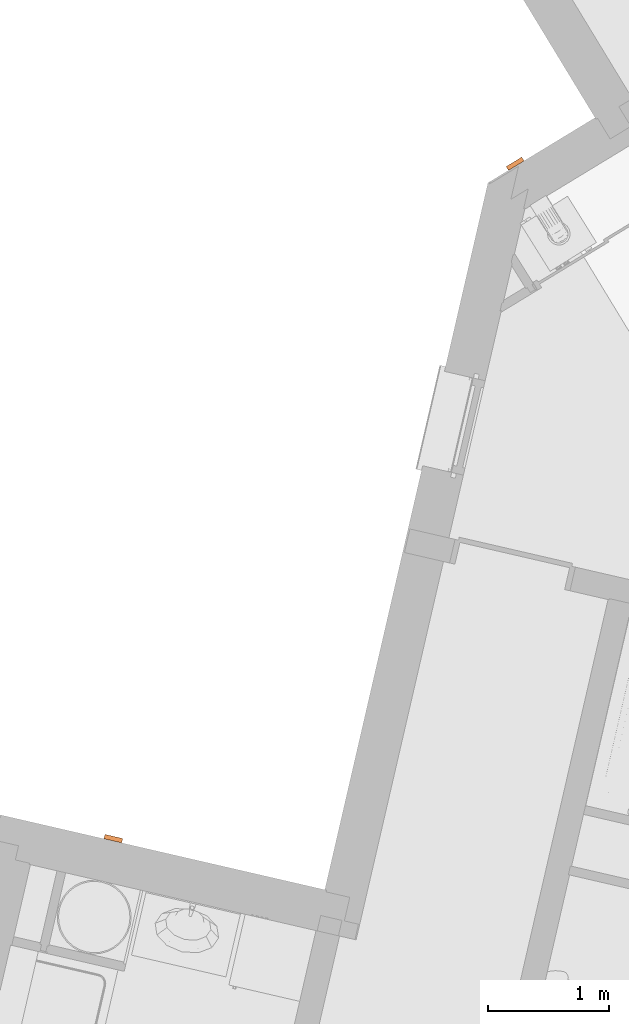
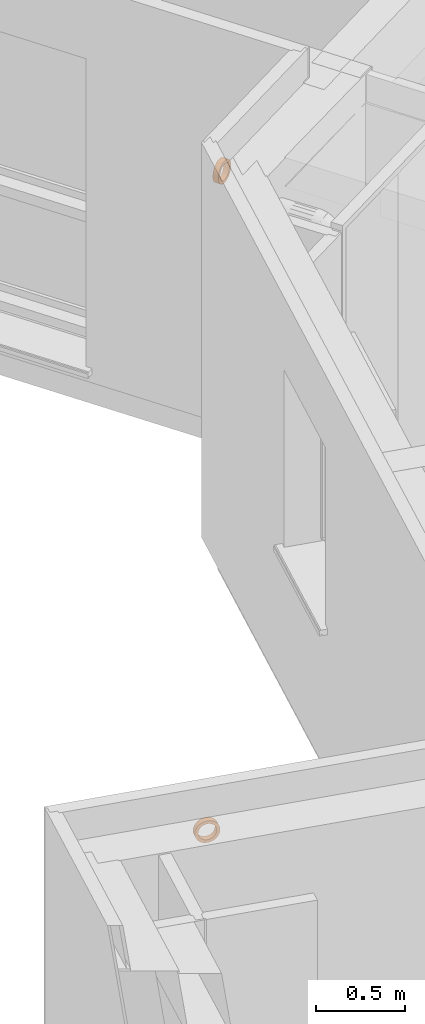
# One storey, part 88 of 90: 2 proxies.
"""IFC2X3 building model written with IfcOpenShell, lengths in metres."""

from ifc_helpers import new_model, entity, si_unit, converted_unit, derived_unit, money_unit, direction, frame, origin_with_axes, place, context, subcontext, project, spatial, faceted_brep, source, transform, mapped, type_object, element, save


model = new_model("IFC2X3")

# Units and contexts
model_context = context("Model", 3, precision=1e-05, world=origin_with_axes(), true_north=direction((0.0, 1.0)))
body_context = subcontext(model_context, "Body", "Model", "MODEL_VIEW")
ifc_project = project(units=[si_unit("LENGTHUNIT", "METRE"), si_unit("AREAUNIT", "SQUARE_METRE"), si_unit("VOLUMEUNIT", "CUBIC_METRE"), converted_unit("PLANEANGLEUNIT", "DEGREE", entity("IfcPlaneAngleMeasure", 0.0174532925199), si_unit("PLANEANGLEUNIT", "RADIAN"), dimensions=[0, 0, 0, 0, 0, 0, 0]), si_unit("SOLIDANGLEUNIT", "STERADIAN"), money_unit("EUR"), converted_unit("TIMEUNIT", "Year", entity("IfcTimeMeasure", 31556926.0), si_unit("TIMEUNIT", "SECOND"), dimensions=[0, 0, 1, 0, 0, 0, 0]), si_unit("MASSUNIT", "GRAM", prefix="KILO"), si_unit("THERMODYNAMICTEMPERATUREUNIT", "DEGREE_CELSIUS"), si_unit("LUMINOUSINTENSITYUNIT", "LUMEN"), si_unit("ENERGYUNIT", "JOULE", prefix="MEGA"), derived_unit("THERMALCONDUCTANCEUNIT", [(si_unit("POWERUNIT", "WATT"), 1), (si_unit("LENGTHUNIT", "METRE"), -1), (si_unit("THERMODYNAMICTEMPERATUREUNIT", "KELVIN"), -1)]), derived_unit("SPECIFICHEATCAPACITYUNIT", [(si_unit("ENERGYUNIT", "JOULE"), 1), (si_unit("MASSUNIT", "GRAM", prefix="KILO"), -1), (si_unit("THERMODYNAMICTEMPERATUREUNIT", "KELVIN"), -1)]), derived_unit("MASSDENSITYUNIT", [(si_unit("MASSUNIT", "GRAM", prefix="KILO"), 1), (si_unit("VOLUMEUNIT", "CUBIC_METRE"), -1)])], contexts=[model_context])

# Site, building, storey
site_placement = place(None, origin_with_axes())
site = spatial("IfcSite", under=ifc_project, at=site_placement, Name="Site", CompositionType="ELEMENT")
building_placement = place(site_placement, origin_with_axes())
building = spatial("IfcBuilding", under=site, at=building_placement, Name="Bâtiment", CompositionType="ELEMENT")
storey_placement = place(building_placement, frame((0.0, 0.0, 2.72), z_axis=(0.0, 0.0, 1.0), x_axis=(1.0, 0.0, 0.0)))
storey = spatial("IfcBuildingStorey", under=building, at=storey_placement, Name="R+1", CompositionType="ELEMENT", Elevation=2.72)

# Proxies
building_element_proxy_type = type_object("IfcBuildingElementProxyType", Name="Tube évidé 23", PredefinedType="NOTDEFINED")
shared_shape = source(origin_with_axes(), body_context, "Body", "Brep", [
    faceted_brep([(0.0, 0.0, -0.075), (0.0, 0.0194114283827, -0.0724444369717), (0.0, 0.0375, -0.0649519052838), (0.0, 0.053033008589, -0.053033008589), (0.0, 0.0649519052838, -0.0375), (0.0, 0.0724444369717, -0.0194114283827), (0.0, 0.075, 0.0), (0.0, 0.0724444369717, 0.0194114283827), (0.0, 0.0649519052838, 0.0375), (0.0, 0.053033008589, 0.053033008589), (0.0, 0.0375, 0.0649519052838), (0.0, 0.0194114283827, 0.0724444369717), (0.0, 0.0, 0.075), (0.0, -0.0194114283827, 0.0724444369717), (0.0, -0.0375, 0.0649519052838), (0.0, -0.053033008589, 0.053033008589), (0.0, -0.0649519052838, 0.0375), (0.0, -0.0724444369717, 0.0194114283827), (0.0, -0.075, 0.0), (0.0, -0.0724444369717, -0.0194114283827), (0.0, -0.0649519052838, -0.0375), (0.0, -0.053033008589, -0.053033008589), (0.0, -0.0375, -0.0649519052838), (0.0, -0.0194114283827, -0.0724444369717), (0.0, -0.0275, -0.0476313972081), (0.0, -0.0388908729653, -0.0388908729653), (0.0, -0.0476313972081, -0.0275), (0.0, -0.0531259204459, -0.0142350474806), (0.0, -0.055, 0.0), (0.0, -0.0531259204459, 0.0142350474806), (0.0, -0.0476313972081, 0.0275), (0.0, -0.0388908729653, 0.0388908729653), (0.0, -0.0275, 0.0476313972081), (0.0, -0.0142350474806, 0.0531259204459), (0.0, 0.0, 0.055), (0.0, 0.0142350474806, 0.0531259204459), (0.0, 0.0275, 0.0476313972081), (0.0, 0.0388908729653, 0.0388908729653), (0.0, 0.0476313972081, 0.0275), (0.0, 0.0531259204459, 0.0142350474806), (0.0, 0.055, 0.0), (0.0, 0.0531259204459, -0.0142350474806), (0.0, 0.0476313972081, -0.0275), (0.0, 0.0388908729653, -0.0388908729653), (0.0, 0.0275, -0.0476313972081), (0.0, 0.0142350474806, -0.0531259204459), (0.0, 0.0, -0.055), (0.0, -0.0142350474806, -0.0531259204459), (-0.0368596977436, 0.0, -0.075), (-0.0368596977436, 0.0194114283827, -0.0724444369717), (-0.0368596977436, 0.0375, -0.0649519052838), (-0.0368596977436, 0.053033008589, -0.053033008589), (-0.0368596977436, 0.0649519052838, -0.0375), (-0.0368596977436, 0.0724444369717, -0.0194114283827), (-0.0368596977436, 0.075, 0.0), (-0.0368596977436, 0.0724444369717, 0.0194114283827), (-0.0368596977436, 0.0649519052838, 0.0375), (-0.0368596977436, 0.053033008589, 0.053033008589), (-0.0368596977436, 0.0375, 0.0649519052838), (-0.0368596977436, 0.0194114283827, 0.0724444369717), (-0.0368596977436, 0.0, 0.075), (-0.0368596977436, -0.0194114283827, 0.0724444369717), (-0.0368596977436, -0.0375, 0.0649519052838), (-0.0368596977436, -0.053033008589, 0.053033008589), (-0.0368596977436, -0.0649519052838, 0.0375), (-0.0368596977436, -0.0724444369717, 0.0194114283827), (-0.0368596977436, -0.075, 0.0), (-0.0368596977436, -0.0724444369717, -0.0194114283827), (-0.0368596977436, -0.0649519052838, -0.0375), (-0.0368596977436, -0.053033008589, -0.053033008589), (-0.0368596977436, -0.0375, -0.0649519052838), (-0.0368596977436, -0.0194114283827, -0.0724444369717), (-0.0368596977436, -0.0388908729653, -0.0388908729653), (-0.0368596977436, -0.0275, -0.0476313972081), (-0.0368596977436, -0.0476313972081, -0.0275), (-0.0368596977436, -0.0531259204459, -0.0142350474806), (-0.0368596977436, -0.055, 0.0), (-0.0368596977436, -0.0531259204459, 0.0142350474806), (-0.0368596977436, -0.0476313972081, 0.0275), (-0.0368596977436, -0.0388908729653, 0.0388908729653), (-0.0368596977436, -0.0275, 0.0476313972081), (-0.0368596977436, -0.0142350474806, 0.0531259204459), (-0.0368596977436, 0.0, 0.055), (-0.0368596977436, 0.0142350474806, 0.0531259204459), (-0.0368596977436, 0.0275, 0.0476313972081), (-0.0368596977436, 0.0388908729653, 0.0388908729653), (-0.0368596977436, 0.0476313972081, 0.0275), (-0.0368596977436, 0.0531259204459, 0.0142350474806), (-0.0368596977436, 0.055, 0.0), (-0.0368596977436, 0.0531259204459, -0.0142350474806), (-0.0368596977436, 0.0476313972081, -0.0275), (-0.0368596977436, 0.0388908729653, -0.0388908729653), (-0.0368596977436, 0.0275, -0.0476313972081), (-0.0368596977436, 0.0142350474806, -0.0531259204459), (-0.0368596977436, 0.0, -0.055), (-0.0368596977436, -0.0142350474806, -0.0531259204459)], [[[0, 1, 2, 3, 4, 5, 6, 7, 8, 9, 10, 11, 12, 13, 14, 15, 16, 17, 18, 19, 20, 21, 22, 23], [24, 25, 26, 27, 28, 29, 30, 31, 32, 33, 34, 35, 36, 37, 38, 39, 40, 41, 42, 43, 44, 45, 46, 47]], [[48, 49, 1, 0]], [[49, 50, 2, 1]], [[50, 51, 3, 2]], [[51, 52, 4, 3]], [[52, 53, 5, 4]], [[53, 54, 6, 5]], [[54, 55, 7, 6]], [[55, 56, 8, 7]], [[56, 57, 9, 8]], [[57, 58, 10, 9]], [[58, 59, 11, 10]], [[59, 60, 12, 11]], [[60, 61, 13, 12]], [[61, 62, 14, 13]], [[62, 63, 15, 14]], [[63, 64, 16, 15]], [[64, 65, 17, 16]], [[65, 66, 18, 17]], [[66, 67, 19, 18]], [[67, 68, 20, 19]], [[68, 69, 21, 20]], [[69, 70, 22, 21]], [[70, 71, 23, 22]], [[71, 48, 0, 23]], [[72, 25, 24, 73]], [[74, 26, 25, 72]], [[75, 27, 26, 74]], [[76, 28, 27, 75]], [[77, 29, 28, 76]], [[78, 30, 29, 77]], [[79, 31, 30, 78]], [[80, 32, 31, 79]], [[81, 33, 32, 80]], [[82, 34, 33, 81]], [[83, 35, 34, 82]], [[84, 36, 35, 83]], [[85, 37, 36, 84]], [[86, 38, 37, 85]], [[87, 39, 38, 86]], [[88, 40, 39, 87]], [[89, 41, 40, 88]], [[90, 42, 41, 89]], [[91, 43, 42, 90]], [[92, 44, 43, 91]], [[93, 45, 44, 92]], [[94, 46, 45, 93]], [[95, 47, 46, 94]], [[73, 24, 47, 95]], [[70, 69, 68, 67, 66, 65, 64, 63, 62, 61, 60, 59, 58, 57, 56, 55, 54, 53, 52, 51, 50, 49, 48, 71], [92, 91, 90, 89, 88, 87, 86, 85, 84, 83, 82, 81, 80, 79, 78, 77, 76, 75, 74, 72, 73, 95, 94, 93]]]),
])
for number, where, z_axis, x_axis, name in (
    (1, (-9.94778968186, 12.2079923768, 2.35), (0.0, 0.0, 1.0), (-0.224876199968, -0.974387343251, 0.0), "MOB-003"),
    (2, (-6.61683110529, 17.7826508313, 2.35), (0.0, 0.0, 1.0), (0.519386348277, -0.854539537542, 0.0), "MOB-003"),
):
    element("IfcBuildingElementProxy", number, at=place(storey_placement, frame(where, z_axis=z_axis, x_axis=x_axis)), inside=storey, type_object=building_element_proxy_type, Name=name, context=body_context, shape_type="MappedRepresentation", body=[
        mapped(shared_shape, transform((0.0, 0.0, 0.0))),
    ])

save(model, "model.ifc")
